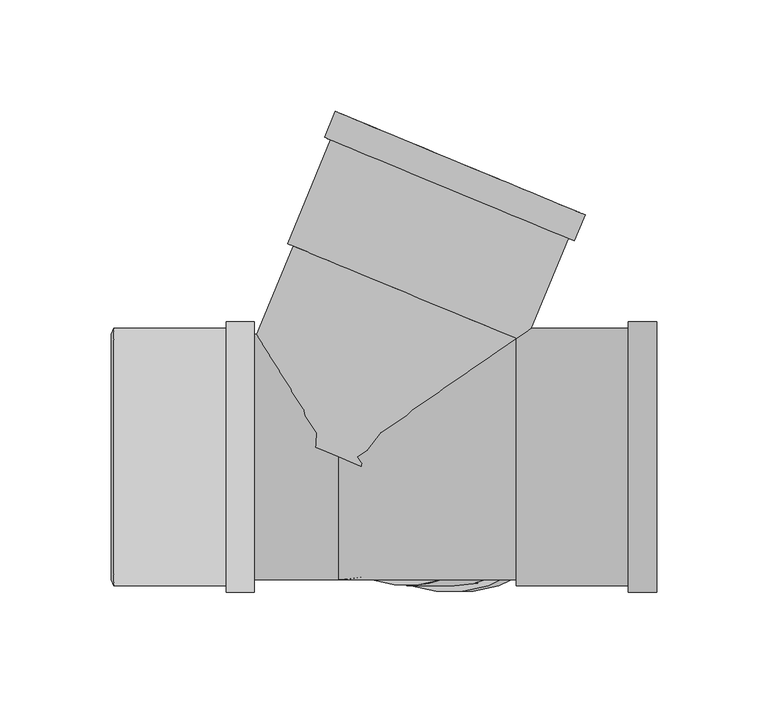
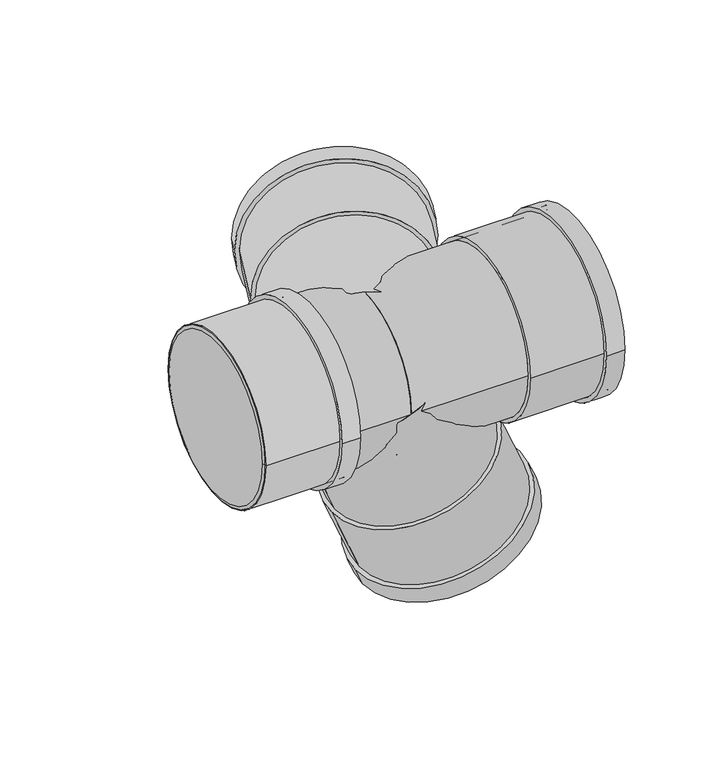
"""IFC4 building model written with IfcOpenShell, lengths in millimetres: pipe fitting geometry, Superdrain HTED-Double corner Branch : Superdrain HTED-Double corner Branch."""

from ifc_helpers import new_model, si_unit, point, frame, origin, origin_2d, place, context, project, spatial, polyline, circle_curve, trimmed, segment, composite_curve, outline, extrude, source, transform, mapped, element, save
from ifc_brep_helpers import plane_surface, revolved_surface, advanced_brep


def pipe_fitting_af6664f6(model_context):
    return source(origin(), model_context, "Body", "SolidModel", [
        extrude(outline(composite_curve([segment(trimmed(circle_curve(origin_2d(), 57.75), [point((57.75, 0.0))], [point((-57.75, 0.0))], False, "CARTESIAN"), True, "CONTINUOUS"), segment(trimmed(circle_curve(origin_2d(), 57.75), [point((-57.75, 0.0))], [point((57.75, 0.0))], False, "CARTESIAN"), True, "CONTINUOUS")], self_intersect=False), holes=[composite_curve([segment(trimmed(circle_curve(origin_2d(), 55.0), [point((55.0, 0.0))], [point((-55.0, 0.0))], True, "CARTESIAN"), True, "CONTINUOUS"), segment(trimmed(circle_curve(origin_2d(), 55.0), [point((-55.0, 0.0))], [point((55.0, 0.0))], True, "CARTESIAN"), True, "CONTINUOUS")], self_intersect=False)]), frame((-100.9, 0.0, 0.0), z_axis=(1.0, 0.0, 0.0), x_axis=(0.0, 1.0, 0.0)), (0.0, 0.0, 1.0), 63.0),
        extrude(outline(composite_curve([segment(trimmed(circle_curve(origin_2d(), 60.6375), [point((60.6375, 0.0))], [point((-60.6375, 0.0))], False, "CARTESIAN"), True, "CONTINUOUS"), segment(trimmed(circle_curve(origin_2d(), 60.6375), [point((-60.6375, 0.0))], [point((60.6375, 0.0))], False, "CARTESIAN"), True, "CONTINUOUS")], self_intersect=False), holes=[composite_curve([segment(trimmed(circle_curve(origin_2d(), 55.0), [point((55.0, 0.0))], [point((-55.0, 0.0))], True, "CARTESIAN"), True, "CONTINUOUS"), segment(trimmed(circle_curve(origin_2d(), 55.0), [point((-55.0, 0.0))], [point((55.0, 0.0))], True, "CARTESIAN"), True, "CONTINUOUS")], self_intersect=False)]), frame((-50.5, 0.0, 0.0), z_axis=(1.0, 0.0, 0.0), x_axis=(0.0, 1.0, 0.0)), (0.0, 0.0, 1.0), 12.6),
        advanced_brep(
        [(-101.9, 55.0, 0.0), (-101.9, -55.0, 0.0), (-100.9, 57.75, 0.0), (-100.9, -57.75, 0.0)],
        [
            (0, 1, circle_curve(frame((-101.9, 0.0, 0.0), z_axis=(-1.0, 0.0, 0.0), x_axis=(0.0, 1.0, 0.0)), 55.0)),
            (1, 0, circle_curve(frame((-101.9, 0.0, 0.0), z_axis=(-1.0, 0.0, 0.0), x_axis=(0.0, -1.0, 0.0)), 55.0)),
            (2, 3, circle_curve(frame((-100.9, 0.0, 0.0), z_axis=(1.0, 0.0, 0.0), x_axis=(0.0, -1.0, 0.0)), 57.75)),
            (3, 2, circle_curve(frame((-100.9, 0.0, 0.0), z_axis=(1.0, 0.0, 0.0), x_axis=(0.0, 1.0, 0.0)), 57.75)),
            (3, 1),
            (0, 2),
        ],
        [
            plane_surface(frame((-101.9, 0.0, 0.0), z_axis=(-1.0, 0.0, 0.0), x_axis=(0.0, 0.0, -1.0))),
            plane_surface(frame((-100.9, 0.0, 0.0), z_axis=(1.0, 0.0, 0.0), x_axis=(0.0, 0.0, -1.0))),
            revolved_surface(polyline([(-101.9, 55.0, 0.0), (-100.9, 57.75, 0.0)]), (-121.9, 0.0, 0.0), (1.0, 0.0, 0.0)),
            revolved_surface(polyline([(-101.9, -55.0, 0.0), (-100.9, -57.75, 0.0)]), (-121.9, 0.0, 0.0), (1.0, 0.0, 0.0)),
        ],
        [
            (0, [[1, 2]]),
            (1, [[3, 4]]),
            (2, [[-4, 5, -1, 6]]),
            (3, [[-3, -6, -2, -5]]),
        ],
    ),
        extrude(outline(composite_curve([segment(trimmed(circle_curve(origin_2d(), 60.6375), [point((0.0, -60.6375001))], [point((0.0, 60.6374999))], False, "CARTESIAN"), True, "CONTINUOUS"), segment(trimmed(circle_curve(origin_2d(), 60.6375), [point((0.0, 60.6374999))], [point((0.0, -60.6375001))], False, "CARTESIAN"), True, "CONTINUOUS")], self_intersect=False), holes=[composite_curve([segment(trimmed(circle_curve(origin_2d(), 55.0), [point((0.0, -55.0))], [point((0.0, 54.9999999))], True, "CARTESIAN"), True, "CONTINUOUS"), segment(trimmed(circle_curve(origin_2d(), 55.0), [point((0.0, 54.9999999))], [point((0.0, -55.0))], True, "CARTESIAN"), True, "CONTINUOUS")], self_intersect=False)]), frame((54.5706575, 0.0, -131.7452213), z_axis=(-0.38268343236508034, 0.0, 0.9238795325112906), x_axis=(0.0, -1.0, 0.0)), (0.0, 0.0, 1.0), 12.6),
        extrude(outline(composite_curve([segment(trimmed(circle_curve(origin_2d(), 57.75), [point((0.0, -57.75))], [point((0.0, 57.75))], False, "CARTESIAN"), True, "CONTINUOUS"), segment(trimmed(circle_curve(origin_2d(), 57.75), [point((0.0, 57.75))], [point((0.0, -57.75))], False, "CARTESIAN"), True, "CONTINUOUS")], self_intersect=False), holes=[composite_curve([segment(trimmed(circle_curve(origin_2d(), 55.0), [point((0.0, -55.0))], [point((0.0, 54.9999999))], True, "CARTESIAN"), True, "CONTINUOUS"), segment(trimmed(circle_curve(origin_2d(), 55.0), [point((0.0, 54.9999999))], [point((0.0, -55.0))], True, "CARTESIAN"), True, "CONTINUOUS")], self_intersect=False)]), frame((54.5706575, 0.0, -131.7452213), z_axis=(-0.38268343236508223, 0.0, 0.92387953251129), x_axis=(0.0, -1.0, 0.0)), (0.0, 0.0, 1.0), 63.0),
        extrude(outline(composite_curve([segment(trimmed(circle_curve(origin_2d(), 55.0), [point((0.0, -55.0))], [point((0.0, 55.0))], False, "CARTESIAN"), True, "CONTINUOUS"), segment(trimmed(circle_curve(origin_2d(), 55.0), [point((0.0, 55.0))], [point((0.0, -55.0))], False, "CARTESIAN"), True, "CONTINUOUS")], self_intersect=False)), frame((30.4616012, 0.0, -73.5408108), z_axis=(-0.3826834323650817, 0.0, 0.9238795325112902), x_axis=(0.0, -1.0, 0.0)), (0.0, 0.0, 1.0), 79.6),
        extrude(outline(composite_curve([segment(trimmed(circle_curve(origin_2d(), 60.6375), [point((0.0, 60.6375))], [point((0.0, -60.6375))], False, "CARTESIAN"), True, "CONTINUOUS"), segment(trimmed(circle_curve(origin_2d(), 60.6375), [point((0.0, -60.6375))], [point((0.0, 60.6375))], False, "CARTESIAN"), True, "CONTINUOUS")], self_intersect=False), holes=[composite_curve([segment(trimmed(circle_curve(origin_2d(), 55.0), [point((0.0, 55.0))], [point((0.0, -55.0))], True, "CARTESIAN"), True, "CONTINUOUS"), segment(trimmed(circle_curve(origin_2d(), 55.0), [point((0.0, -55.0))], [point((0.0, 55.0))], True, "CARTESIAN"), True, "CONTINUOUS")], self_intersect=False)]), frame((49.7488462, 120.1043392, 0.0), z_axis=(0.3826834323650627, 0.9238795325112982, 0.0), x_axis=(0.0, 0.0, 1.0)), (0.0, 0.0, 1.0), 12.6),
        extrude(outline(composite_curve([segment(trimmed(circle_curve(origin_2d(), 57.75), [point((0.0, 57.75))], [point((0.0, -57.75))], False, "CARTESIAN"), True, "CONTINUOUS"), segment(trimmed(circle_curve(origin_2d(), 57.75), [point((0.0, -57.75))], [point((0.0, 57.75))], False, "CARTESIAN"), True, "CONTINUOUS")], self_intersect=False), holes=[composite_curve([segment(trimmed(circle_curve(origin_2d(), 55.0), [point((0.0, 55.0))], [point((0.0, -55.0))], True, "CARTESIAN"), True, "CONTINUOUS"), segment(trimmed(circle_curve(origin_2d(), 55.0), [point((0.0, -55.0))], [point((0.0, 55.0))], True, "CARTESIAN"), True, "CONTINUOUS")], self_intersect=False)]), frame((30.4616012, 73.5408108, 0.0), z_axis=(0.3826834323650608, 0.9238795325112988, 0.0), x_axis=(0.0, 0.0, 1.0)), (0.0, 0.0, 1.0), 63.0),
        extrude(outline(composite_curve([segment(trimmed(circle_curve(origin_2d(), 55.0), [point((0.0, 55.0))], [point((0.0, -55.0))], False, "CARTESIAN"), True, "CONTINUOUS"), segment(trimmed(circle_curve(origin_2d(), 55.0), [point((0.0, -55.0))], [point((0.0, 55.0))], False, "CARTESIAN"), True, "CONTINUOUS")], self_intersect=False)), frame((0.0, 0.0, 0.0), z_axis=(0.3826834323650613, 0.9238795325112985, 0.0), x_axis=(0.0, 0.0, 1.0)), (0.0, 0.0, 1.0), 79.6),
        extrude(outline(composite_curve([segment(trimmed(circle_curve(origin_2d(), 60.6375), [point((-60.6375, 0.0))], [point((60.6375, 0.0))], False, "CARTESIAN"), True, "CONTINUOUS"), segment(trimmed(circle_curve(origin_2d(), 60.6375), [point((60.6375, 0.0))], [point((-60.6375, 0.0))], False, "CARTESIAN"), True, "CONTINUOUS")], self_intersect=False), holes=[composite_curve([segment(trimmed(circle_curve(origin_2d(), 57.75), [point((-57.75, 0.0))], [point((57.75, 0.0))], True, "CARTESIAN"), True, "CONTINUOUS"), segment(trimmed(circle_curve(origin_2d(), 57.75), [point((57.75, 0.0))], [point((-57.75, 0.0))], True, "CARTESIAN"), True, "CONTINUOUS")], self_intersect=False)]), frame((130.0, 0.0, 0.0), z_axis=(1.0, 0.0, 0.0), x_axis=(0.0, 1.0, 0.0)), (0.0, 0.0, 1.0), 12.6),
        extrude(outline(composite_curve([segment(trimmed(circle_curve(origin_2d(), 57.75), [point((-57.75, 0.0))], [point((57.75, 0.0))], False, "CARTESIAN"), True, "CONTINUOUS"), segment(trimmed(circle_curve(origin_2d(), 57.75), [point((57.75, 0.0))], [point((-57.75, 0.0))], False, "CARTESIAN"), True, "CONTINUOUS")], self_intersect=False), holes=[composite_curve([segment(trimmed(circle_curve(origin_2d(), 55.0), [point((-55.0, 0.0))], [point((55.0, 0.0))], True, "CARTESIAN"), True, "CONTINUOUS"), segment(trimmed(circle_curve(origin_2d(), 55.0), [point((55.0, 0.0))], [point((-55.0, 0.0))], True, "CARTESIAN"), True, "CONTINUOUS")], self_intersect=False)]), frame((79.6, 0.0, 0.0), z_axis=(1.0, 0.0, 0.0), x_axis=(0.0, 1.0, 0.0)), (0.0, 0.0, 1.0), 63.0),
        extrude(outline(composite_curve([segment(trimmed(circle_curve(origin_2d(), 55.0), [point((-55.0, 0.0))], [point((55.0, 0.0))], False, "CARTESIAN"), True, "CONTINUOUS"), segment(trimmed(circle_curve(origin_2d(), 55.0), [point((55.0, 0.0))], [point((-55.0, 0.0))], False, "CARTESIAN"), True, "CONTINUOUS")], self_intersect=False)), frame((0.0, 0.0, 0.0), z_axis=(1.0, 0.0, 0.0), x_axis=(0.0, 1.0, 0.0)), (0.0, 0.0, 1.0), 79.6),
        extrude(outline(composite_curve([segment(trimmed(circle_curve(origin_2d(), 55.0), [point((-55.0, 0.0))], [point((55.0, 0.0))], False, "CARTESIAN"), True, "CONTINUOUS"), segment(trimmed(circle_curve(origin_2d(), 55.0), [point((55.0, 0.0))], [point((-55.0, 0.0))], False, "CARTESIAN"), True, "CONTINUOUS")], self_intersect=False)), frame((-100.9, 0.0, 0.0), z_axis=(1.0, 0.0, 0.0), x_axis=(0.0, 1.0, 0.0)), (0.0, 0.0, 1.0), 100.9),
    ])


if __name__ == "__main__":
    model = new_model("IFC4")
    model_context = context("Model", 3, world=origin())
    ifc_project = project(units=[si_unit("LENGTHUNIT", "METRE", prefix="MILLI")], contexts=[model_context])
    site = spatial("IfcSite", under=ifc_project)
    building = spatial("IfcBuilding", under=site)
    placement = place(None, origin())
    pipe_fitting_shape = pipe_fitting_af6664f6(model_context)
    element("IfcPipeFitting", 1, ObjectType="Superdrain HTED-Double corner Branch : Superdrain HTED-Double corner Branch", at=placement, inside=building, context=model_context, shape_type="MappedRepresentation", body=[
        mapped(pipe_fitting_shape, transform((0.0, 0.0, 0.0), x_axis=(1.0, 0.0, 0.0), y_axis=(0.0, 1.0, 0.0), z_axis=(0.0, 0.0, 1.0))),
    ])
    save(model, "model.ifc")
